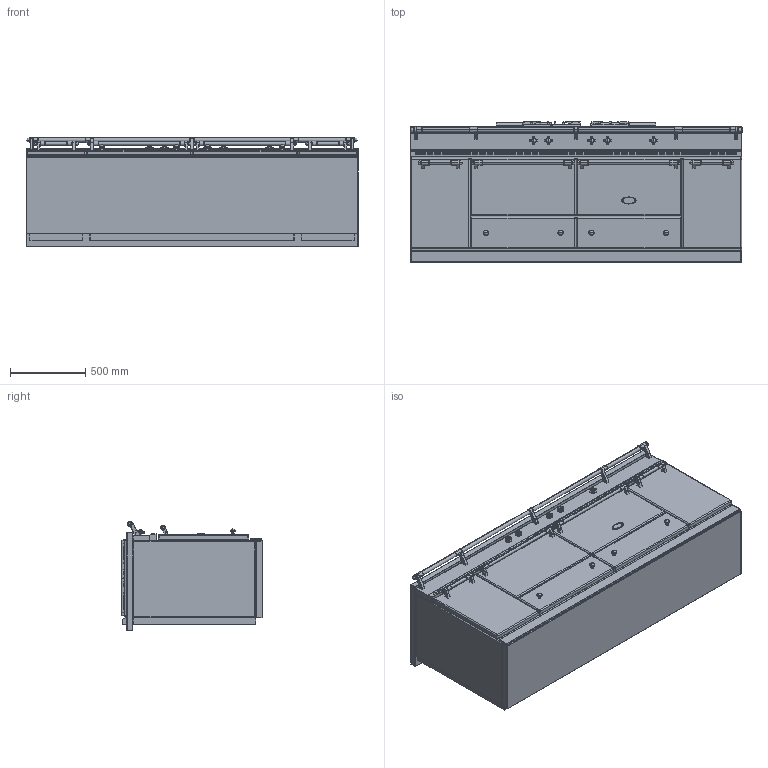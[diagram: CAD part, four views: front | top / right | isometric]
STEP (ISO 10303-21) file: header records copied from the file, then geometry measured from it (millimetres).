
FILE_DESCRIPTION((''),'2;1');
FILE_NAME('LG2232_ASM','2014-07-29T',('r.avril'),(''),'PRO/ENGINEER BY PARAMETRIC TECHNOLOGY CORPORATION, 2014090','PRO/ENGINEER BY PARAMETRIC TECHNOLOGY CORPORATION, 2014090','');
FILE_SCHEMA(('AP203_CONFIGURATION_CONTROLLED_3D_DESIGN_OF_MECHANICAL_PARTS_AND_ASSEMBLIES_MIM_LF { 1 0 10303 403 2 1 2 }'));
Products named in the file (27): BASE_EXPORT_SULLY_LG2232; 65650003; 65650004; 65650005; 6531940; 6531941; 6531943; 65049009; 65650001; 65650006; 65650007; 6538399; 1931942; 6518450; 6531942_ASM; BASE_EXPORT_SULLY_LG2232_ASM; TABLE_SULLY_2200_3_FEUX; 5KW; 1_5KW; 3KW; 6537025; 65149005; 90000488_ASM; 6537023; 90000565_ASM; TABLE_SULLY_2200_3_FEUX_ASM; LG2232_ASM
Assembly tree (47 placements, depth 4):
  LG2232_ASM
    BASE_EXPORT_SULLY_LG2232_ASM
      BASE_EXPORT_SULLY_LG2232
      65650003
      65650004
      65650005
      6531940  x4
      6531941  x4
      6531943  x4
      65049009
      65650001
      65650006
      65650007
      6531942_ASM  x5
        6538399
        1931942
        6518450
    TABLE_SULLY_2200_3_FEUX_ASM
      TABLE_SULLY_2200_3_FEUX
      5KW
      1_5KW
      3KW
      90000488_ASM  x2
        6537025
        65149005
      90000565_ASM
        6537023
        65149005  x4
Bounding box: 2205 x 935.5 x 724 mm (x, y, z)
Volume: 1151886887.6 mm3; surface area: 16275292.4 mm2
Topology: 58 solids, 75 shells, 5802 faces, 14776 edges, 9417 vertices
Faces by surface type: plane 2302, cylinder 1974, bspline 434, sphere 344, torus 330, cone 226, extrusion 162, revolution 30
Entity records: 148912 total; most frequent: CARTESIAN_POINT 38081, DIRECTION 18224, ORIENTED_EDGE 16576, EDGE_CURVE 8304, AXIS2_PLACEMENT_3D 6576, PRESENTATION_STYLE_ASSIGNMENT 5487, STYLED_ITEM 5464, CURVE_STYLE 5424
